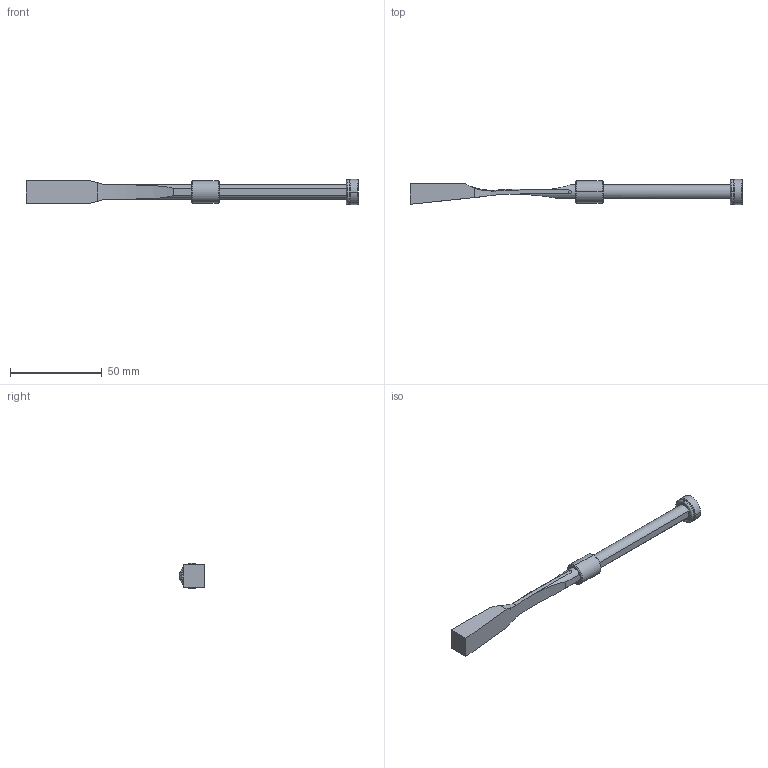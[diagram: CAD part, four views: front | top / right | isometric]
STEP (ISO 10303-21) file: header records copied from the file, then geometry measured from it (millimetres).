
FILE_DESCRIPTION (( 'STEP AP214' ), '1' );
FILE_NAME ('PW081230-TANCADA.STEP', '2020-02-10T08:47:56', ( '' ), ( '' ), 'SwSTEP 2.0', 'SolidWorks 2018', '' );
FILE_SCHEMA (( 'AUTOMOTIVE_DESIGN' ));
Length unit declared in the file: millimetre
Products named in the file (6): 3JT9.5X2X13.5; 9PW081230 TANCADA; 1DIN7984516_DIN 7984 - M5 x 16 --- 16C; 9FP1406M5; 9CS081215; PW081230-TANCADA
Assembly tree (5 placements, depth 2):
  PW081230-TANCADA
    9PW081230 TANCADA
    9CS081215
    9FP1406M5
    3JT9.5X2X13.5
    1DIN7984516_DIN 7984 - M5 x 16 --- 16C
Bounding box: 181 x 13.8 x 13.8 mm (x, y, z)
Volume: 11226.3 mm3; surface area: 7945.3 mm2
Topology: 5 solids, 5 shells, 102 faces, 229 edges, 136 vertices
Faces by surface type: plane 34, cylinder 24, cone 20, torus 16, bspline 8
Entity records: 3449 total; most frequent: CARTESIAN_POINT 701, DIRECTION 513, ORIENTED_EDGE 450, EDGE_CURVE 225, AXIS2_PLACEMENT_3D 208, VERTEX_POINT 136, EDGE_LOOP 111, CIRCLE 106
